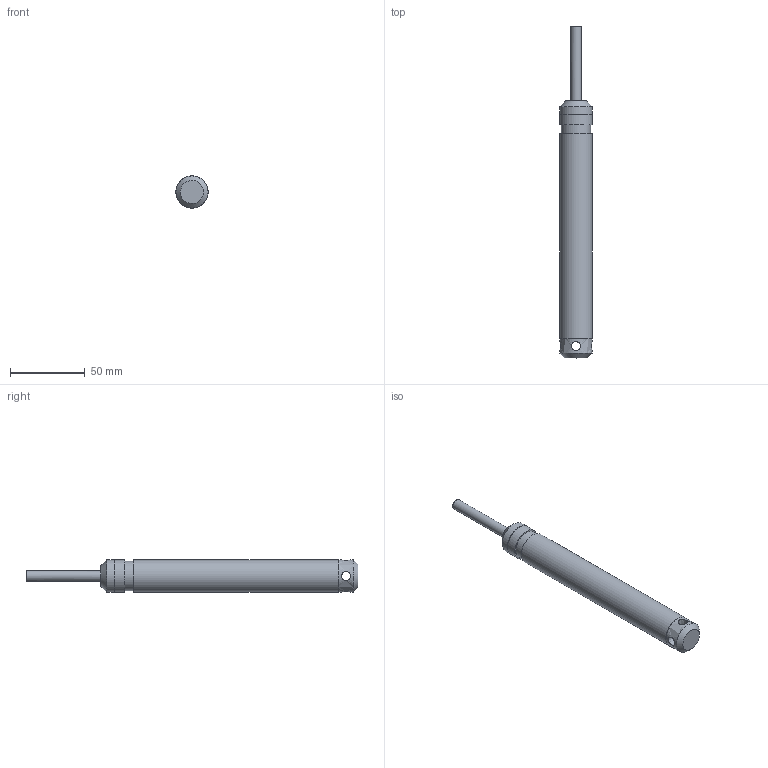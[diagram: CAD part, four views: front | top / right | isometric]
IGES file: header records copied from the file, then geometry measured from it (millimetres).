
Global section: file name: NPK; native system: Autodesk Inventor 2015; preprocessor: unknown; author: aantal; date: 20150708.083622; units: millimetre
Bounding box: 21.5 x 222 x 21.5 mm (x, y, z)
Volume: 62143.1 mm3; surface area: 13925.9 mm2
Topology: 1 solids, 1 shells, 24 faces, 64 edges, 46 vertices
Faces by surface type: bspline 24
